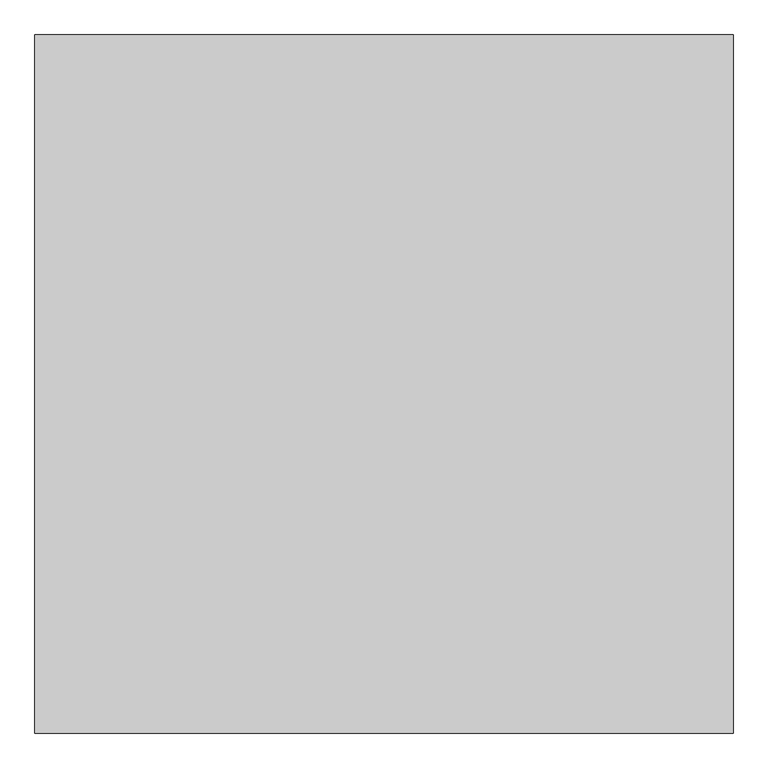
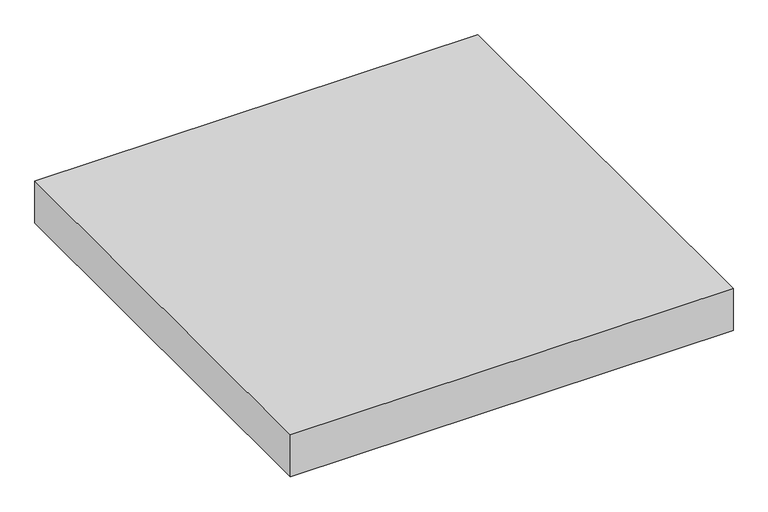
"""IFC4 building model written with IfcOpenShell, lengths in millimetres: proxy geometry, Modelos genéricos 22 : Modelos genéricos 1."""

from ifc_helpers import new_model, si_unit, origin, origin_with_axes, place, context, project, spatial, polyline, outline, extrude, source, transform, mapped, element, save


def generic_models_a4b7abf8(model_context):
    return source(origin(), model_context, "Body", "SweptSolid", [
        extrude(outline(polyline([(6809.3973641, 11454.287186), (6809.3973641, 9954.287186), (5309.3973641, 9954.287186), (5309.3973641, 11454.287186), (6809.3973641, 11454.287186)])), origin_with_axes(), (0.0, 0.0, 1.0), 150.0),
    ])


if __name__ == "__main__":
    model = new_model("IFC4")
    model_context = context("Model", 3, world=origin())
    ifc_project = project(units=[si_unit("LENGTHUNIT", "METRE", prefix="MILLI")], contexts=[model_context])
    site = spatial("IfcSite", under=ifc_project)
    building = spatial("IfcBuilding", under=site)
    placement = place(None, origin())
    generic_models_shape = generic_models_a4b7abf8(model_context)
    element("IfcBuildingElementProxy", 1, Name="Modelos genéricos 22 : Modelos genéricos 1", ObjectType="Modelos genéricos 22 : Modelos genéricos 1", at=placement, inside=building, context=model_context, shape_type="MappedRepresentation", body=[
        mapped(generic_models_shape, transform((0.0, 0.0, 0.0), x_axis=(1.0, 0.0, 0.0), y_axis=(0.0, 1.0, 0.0), z_axis=(0.0, 0.0, 1.0))),
    ])
    save(model, "model.ifc")
